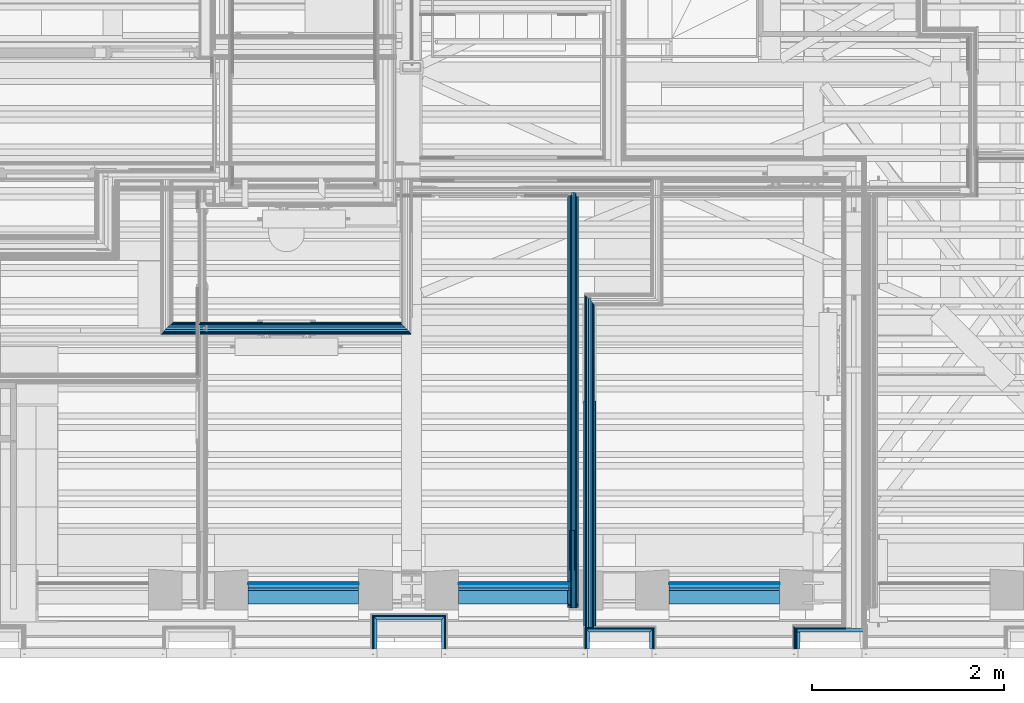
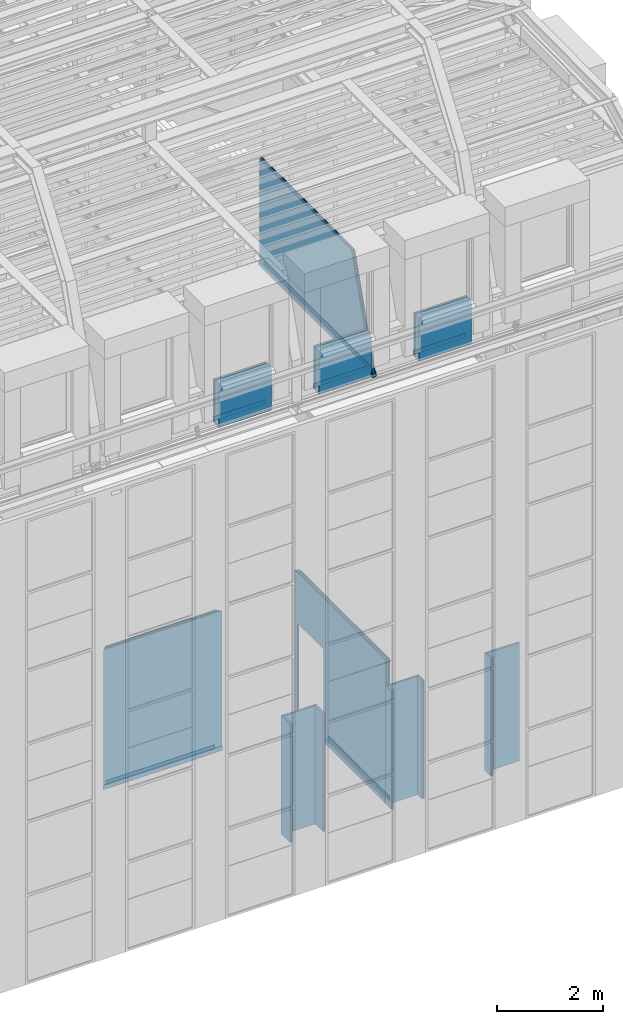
# One storey, part 49 of 183: 53 building element parts, 2 openings, 14 elements without a shape of their own.
"""IFC2X3 building model written with IfcOpenShell, lengths in metres."""

from ifc_helpers import new_model, entity, si_unit, converted_unit, derived_unit, money_unit, direction, frame, frame_2d, origin_with_axes, place, context, subcontext, project, spatial, polyline, rectangle, outline, extrude, clip, halfspace, material, type_object, element, aggregate, save


model = new_model("IFC2X3")

# Units and contexts
model_context = context("Model", 3, precision=1e-05, world=origin_with_axes(), true_north=direction((0.0, 1.0)))
body_context = subcontext(model_context, "Body", "Model", "MODEL_VIEW", scale=1.0)
ifc_project = project(units=[si_unit("LENGTHUNIT", "METRE"), si_unit("AREAUNIT", "SQUARE_METRE"), si_unit("VOLUMEUNIT", "CUBIC_METRE"), si_unit("ABSORBEDDOSEUNIT", "GRAY"), si_unit("AMOUNTOFSUBSTANCEUNIT", "MOLE"), si_unit("DOSEEQUIVALENTUNIT", "SIEVERT"), si_unit("ELECTRICCAPACITANCEUNIT", "FARAD"), si_unit("ELECTRICCHARGEUNIT", "COULOMB"), si_unit("ELECTRICCONDUCTANCEUNIT", "SIEMENS"), si_unit("ELECTRICCURRENTUNIT", "AMPERE"), si_unit("ELECTRICRESISTANCEUNIT", "OHM"), si_unit("ELECTRICVOLTAGEUNIT", "VOLT"), si_unit("ENERGYUNIT", "JOULE"), si_unit("FORCEUNIT", "NEWTON"), si_unit("FREQUENCYUNIT", "HERTZ"), si_unit("ILLUMINANCEUNIT", "LUX"), si_unit("INDUCTANCEUNIT", "HENRY"), si_unit("LUMINOUSFLUXUNIT", "LUMEN"), si_unit("LUMINOUSINTENSITYUNIT", "CANDELA"), si_unit("MAGNETICFLUXDENSITYUNIT", "TESLA"), si_unit("MAGNETICFLUXUNIT", "WEBER"), si_unit("MASSUNIT", "GRAM"), converted_unit("PLANEANGLEUNIT", "degree", entity("IfcReal", 0.0174532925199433), si_unit("PLANEANGLEUNIT", "RADIAN"), dimensions=[0, 0, 0, 0, 0, 0, 0]), si_unit("POWERUNIT", "WATT"), si_unit("PRESSUREUNIT", "PASCAL"), si_unit("RADIOACTIVITYUNIT", "BECQUEREL"), si_unit("SOLIDANGLEUNIT", "STERADIAN"), si_unit("THERMODYNAMICTEMPERATUREUNIT", "KELVIN"), si_unit("TIMEUNIT", "SECOND"), derived_unit("ACCELERATIONUNIT", [(si_unit("LENGTHUNIT", "METRE"), 1), (si_unit("TIMEUNIT", "SECOND"), -2)]), derived_unit("ANGULARVELOCITYUNIT", [(converted_unit("PLANEANGLEUNIT", "degree", entity("IfcReal", 0.0174532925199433), si_unit("PLANEANGLEUNIT", "RADIAN"), dimensions=[0, 0, 0, 0, 0, 0, 0]), 1), (si_unit("TIMEUNIT", "SECOND"), -1)]), derived_unit("CURVATUREUNIT", [(converted_unit("PLANEANGLEUNIT", "degree", entity("IfcReal", 0.0174532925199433), si_unit("PLANEANGLEUNIT", "RADIAN"), dimensions=[0, 0, 0, 0, 0, 0, 0]), 1), (si_unit("LENGTHUNIT", "METRE"), -1)]), derived_unit("DYNAMICVISCOSITYUNIT", [(si_unit("PRESSUREUNIT", "PASCAL"), 1), (si_unit("TIMEUNIT", "SECOND"), 1)]), derived_unit("HEATFLUXDENSITYUNIT", [(si_unit("POWERUNIT", "WATT"), 1), (si_unit("LENGTHUNIT", "METRE"), -2)]), derived_unit("HEATINGVALUEUNIT", [(si_unit("ENERGYUNIT", "JOULE"), 1), (si_unit("MASSUNIT", "GRAM"), -1)]), derived_unit("INTEGERCOUNTRATEUNIT", [(si_unit("TIMEUNIT", "SECOND"), -1)]), derived_unit("IONCONCENTRATIONUNIT", [(si_unit("MASSUNIT", "GRAM"), 1), (si_unit("VOLUMEUNIT", "CUBIC_METRE"), -1)]), derived_unit("ISOTHERMALMOISTURECAPACITYUNIT", [(si_unit("VOLUMEUNIT", "CUBIC_METRE"), 1), (si_unit("MASSUNIT", "GRAM"), -1)]), derived_unit("KINEMATICVISCOSITYUNIT", [(si_unit("AREAUNIT", "SQUARE_METRE"), 1), (si_unit("TIMEUNIT", "SECOND"), -1)]), derived_unit("LINEARFORCEUNIT", [(si_unit("FORCEUNIT", "NEWTON"), 1), (si_unit("LENGTHUNIT", "METRE"), -1)]), derived_unit("LINEARMOMENTUNIT", [(si_unit("FORCEUNIT", "NEWTON"), 1), (si_unit("LENGTHUNIT", "METRE"), -1)]), derived_unit("LINEARSTIFFNESSUNIT", [(si_unit("FORCEUNIT", "NEWTON"), 1), (si_unit("LENGTHUNIT", "METRE"), -1)]), derived_unit("LINEARVELOCITYUNIT", [(si_unit("LENGTHUNIT", "METRE"), 1), (si_unit("TIMEUNIT", "SECOND"), -1)]), derived_unit("LUMINOUSINTENSITYDISTRIBUTIONUNIT", [(si_unit("LUMINOUSINTENSITYUNIT", "CANDELA"), 1), (si_unit("LUMINOUSFLUXUNIT", "LUMEN"), -1)]), derived_unit("MASSDENSITYUNIT", [(si_unit("MASSUNIT", "GRAM"), 1), (si_unit("VOLUMEUNIT", "CUBIC_METRE"), -1)]), derived_unit("MASSFLOWRATEUNIT", [(si_unit("MASSUNIT", "GRAM"), 1), (si_unit("TIMEUNIT", "SECOND"), -1)]), derived_unit("MASSPERLENGTHUNIT", [(si_unit("MASSUNIT", "GRAM"), 1), (si_unit("LENGTHUNIT", "METRE"), -1)]), derived_unit("MODULUSOFELASTICITYUNIT", [(si_unit("FORCEUNIT", "NEWTON"), 1), (si_unit("AREAUNIT", "SQUARE_METRE"), -1)]), derived_unit("MODULUSOFLINEARSUBGRADEREACTIONUNIT", [(si_unit("FORCEUNIT", "NEWTON"), 1), (si_unit("LENGTHUNIT", "METRE"), -2)]), derived_unit("MODULUSOFROTATIONALSUBGRADEREACTIONUNIT", [(si_unit("FORCEUNIT", "NEWTON"), 1), (si_unit("LENGTHUNIT", "METRE"), 1)]), derived_unit("MODULUSOFSUBGRADEREACTIONUNIT", [(si_unit("FORCEUNIT", "NEWTON"), 1), (si_unit("VOLUMEUNIT", "CUBIC_METRE"), -1)]), derived_unit("MOISTUREDIFFUSIVITYUNIT", [(si_unit("VOLUMEUNIT", "CUBIC_METRE"), 1), (si_unit("TIMEUNIT", "SECOND"), -1)]), derived_unit("MOLECULARWEIGHTUNIT", [(si_unit("MASSUNIT", "GRAM"), 1), (si_unit("AMOUNTOFSUBSTANCEUNIT", "MOLE"), -1)]), derived_unit("PLANARFORCEUNIT", [(si_unit("FORCEUNIT", "NEWTON"), 1), (si_unit("LENGTHUNIT", "METRE"), -2)]), derived_unit("ROTATIONALFREQUENCYUNIT", [(si_unit("TIMEUNIT", "SECOND"), -1)]), derived_unit("ROTATIONALMASSUNIT", [(si_unit("MASSUNIT", "GRAM"), 1), (si_unit("LENGTHUNIT", "METRE"), 2)]), derived_unit("ROTATIONALSTIFFNESSUNIT", [(si_unit("FORCEUNIT", "NEWTON"), 1), (si_unit("LENGTHUNIT", "METRE"), 1), (converted_unit("PLANEANGLEUNIT", "degree", entity("IfcReal", 0.0174532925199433), si_unit("PLANEANGLEUNIT", "RADIAN"), dimensions=[0, 0, 0, 0, 0, 0, 0]), -1)]), derived_unit("SECTIONAREAINTEGRALUNIT", [(si_unit("LENGTHUNIT", "METRE"), 5)]), derived_unit("SECTIONMODULUSUNIT", [(si_unit("LENGTHUNIT", "METRE"), 3)]), derived_unit("SHEARMODULUSUNIT", [(si_unit("FORCEUNIT", "NEWTON"), 1), (si_unit("AREAUNIT", "SQUARE_METRE"), -1)]), derived_unit("SOUNDPOWERUNIT", [(si_unit("ENERGYUNIT", "JOULE"), 1), (si_unit("TIMEUNIT", "SECOND"), -1)]), derived_unit("SPECIFICHEATCAPACITYUNIT", [(si_unit("FORCEUNIT", "NEWTON"), 1), (si_unit("MASSUNIT", "GRAM"), -1), (si_unit("THERMODYNAMICTEMPERATUREUNIT", "KELVIN"), -1)]), derived_unit("TEMPERATUREGRADIENTUNIT", [(si_unit("THERMODYNAMICTEMPERATUREUNIT", "KELVIN"), 1), (si_unit("LENGTHUNIT", "METRE"), -1)]), derived_unit("THERMALADMITTANCEUNIT", [(si_unit("POWERUNIT", "WATT"), 1), (si_unit("AREAUNIT", "SQUARE_METRE"), -1), (si_unit("THERMODYNAMICTEMPERATUREUNIT", "KELVIN"), -1)]), derived_unit("THERMALCONDUCTANCEUNIT", [(si_unit("POWERUNIT", "WATT"), 1), (si_unit("LENGTHUNIT", "METRE"), -1), (si_unit("THERMODYNAMICTEMPERATUREUNIT", "KELVIN"), -1)]), derived_unit("THERMALEXPANSIONCOEFFICIENTUNIT", [(si_unit("THERMODYNAMICTEMPERATUREUNIT", "KELVIN"), -1)]), derived_unit("THERMALRESISTANCEUNIT", [(si_unit("AREAUNIT", "SQUARE_METRE"), 1), (si_unit("POWERUNIT", "WATT"), -1)]), derived_unit("THERMALTRANSMITTANCEUNIT", [(si_unit("POWERUNIT", "WATT"), 1), (si_unit("AREAUNIT", "SQUARE_METRE"), -1), (si_unit("THERMODYNAMICTEMPERATUREUNIT", "KELVIN"), -1)]), derived_unit("TORQUEUNIT", [(si_unit("FORCEUNIT", "NEWTON"), 1), (si_unit("LENGTHUNIT", "METRE"), 1)]), derived_unit("VAPORPERMEABILITYUNIT", [(si_unit("MASSUNIT", "GRAM"), 1), (si_unit("TIMEUNIT", "SECOND"), -1)]), derived_unit("VOLUMETRICFLOWRATEUNIT", [(si_unit("VOLUMEUNIT", "CUBIC_METRE"), 1), (si_unit("TIMEUNIT", "SECOND"), -1)]), derived_unit("WARPINGCONSTANTUNIT", [(si_unit("LENGTHUNIT", "METRE"), 6)]), derived_unit("WARPINGMOMENTUNIT", [(si_unit("FORCEUNIT", "NEWTON"), 1), (si_unit("LENGTHUNIT", "METRE"), 2)]), money_unit("GBP")], contexts=[model_context])

# Site, building, storey
site_placement = place(None, origin_with_axes())
site = spatial("IfcSite", under=ifc_project, at=site_placement, Name="Site", CompositionType="ELEMENT")
building_placement = place(site_placement, origin_with_axes())
building = spatial("IfcBuilding", under=site, at=building_placement, Name="Building01", CompositionType="ELEMENT")
storey_placement = place(building_placement, frame((0.0, 0.0, 5.15), z_axis=(0.0, 0.0, 1.0), x_axis=(1.0, 0.0, 0.0)))
storey = spatial("IfcBuildingStorey", under=building, at=storey_placement, Name="1F", CompositionType="ELEMENT", Elevation=5.15)

# Wall, building element parts
wall_type_1 = type_object("IfcWallType", Name="SHE_A-Walls_Type06d_ExternalWallInsulation_48mm", PredefinedType="NOTDEFINED")
wall_1_placement = place(storey_placement, frame((17.55, 0.1, 0.0), z_axis=(0.0, 0.0, 1.0), x_axis=(0.0, 1.0, 0.0)))
wall_1 = element("IfcWall", 1, at=wall_1_placement, inside=storey, type_object=wall_type_1, Name="6D", ObjectType="SHE_A-Walls_Type06d_ExternalWallInsulation_48mm")
ifc_material_1 = material(Name="A_BSUK_Insulation")
placement_1 = place(wall_1_placement, origin_with_axes())
building_element_part_1 = element("IfcBuildingElementPart", 2, at=placement_1, material=ifc_material_1, Name="1", context=body_context, shape_type="SweptSolid", body=[
    extrude(outline(polyline([(0.336, 0.036), (0.0, 0.036), (0.0, 0.0), (0.3, 0.0), (0.336, 0.036)])), origin_with_axes(), (0.0, 0.0, 1.0), 2.74),
])
ifc_material_2 = material(Name="A_BSUK_WallInternal_Finishes_Plasterboard")
building_element_part_2 = element("IfcBuildingElementPart", 3, at=placement_1, material=ifc_material_2, Name="2", context=body_context, shape_type="SweptSolid", body=[
    extrude(outline(polyline([(0.348, 0.048), (0.0, 0.048), (0.0, 0.035), (0.335, 0.035), (0.348, 0.048)])), origin_with_axes(), (0.0, 0.0, 1.0), 2.74),
])
aggregate(wall_1, [building_element_part_1, building_element_part_2])

wall_2_placement = place(storey_placement, frame((17.55, 0.4, 0.0), z_axis=(0.0, 0.0, 1.0), x_axis=(1.0, 0.0, 0.0)))
wall_2 = element("IfcWall", 4, at=wall_2_placement, inside=storey, type_object=wall_type_1, Name="6D", ObjectType="SHE_A-Walls_Type06d_ExternalWallInsulation_48mm")
placement_2 = place(wall_2_placement, origin_with_axes())
building_element_part_3 = element("IfcBuildingElementPart", 5, at=placement_2, material=ifc_material_1, Name="1", context=body_context, shape_type="SweptSolid", body=[
    extrude(outline(polyline([(0.706, 0.036), (-0.036, 0.036), (0.0, 0.0), (0.67, 0.0), (0.706, 0.036)])), origin_with_axes(), (0.0, 0.0, 1.0), 2.74),
])
building_element_part_4 = element("IfcBuildingElementPart", 6, at=placement_2, material=ifc_material_2, Name="2", context=body_context, shape_type="SweptSolid", body=[
    extrude(outline(polyline([(0.718, 0.048), (-0.048, 0.048), (-0.035, 0.035), (0.705, 0.035), (0.718, 0.048)])), origin_with_axes(), (0.0, 0.0, 1.0), 2.74),
])
aggregate(wall_2, [building_element_part_3, building_element_part_4])

wall_3_placement = place(storey_placement, frame((18.22, 0.4, 0.0), z_axis=(0.0, 0.0, 1.0), x_axis=(0.0, -1.0, 0.0)))
wall_3 = element("IfcWall", 7, at=wall_3_placement, inside=storey, type_object=wall_type_1, Name="6D", ObjectType="SHE_A-Walls_Type06d_ExternalWallInsulation_48mm")
placement_3 = place(wall_3_placement, origin_with_axes())
building_element_part_5 = element("IfcBuildingElementPart", 8, at=placement_3, material=ifc_material_1, Name="1", context=body_context, shape_type="SweptSolid", body=[
    extrude(outline(polyline([(-0.036, 0.036), (0.0, 0.0), (0.3, 0.0), (0.3, 0.036), (-0.036, 0.036)])), origin_with_axes(), (0.0, 0.0, 1.0), 2.74),
])
building_element_part_6 = element("IfcBuildingElementPart", 9, at=placement_3, material=ifc_material_2, Name="2", context=body_context, shape_type="SweptSolid", body=[
    extrude(outline(polyline([(-0.048, 0.048), (-0.035, 0.035), (0.3, 0.035), (0.3, 0.048), (-0.048, 0.048)])), origin_with_axes(), (0.0, 0.0, 1.0), 2.74),
])
aggregate(wall_3, [building_element_part_5, building_element_part_6])

# Wall, openings, building element parts
wall_type_2 = type_object("IfcWallType", Name="SHE_A-Walls_Type05a_Partition_95mm_tall", PredefinedType="NOTDEFINED")
wall_4_placement = place(storey_placement, frame((19.75, 3.745, 0.0), z_axis=(0.0, 0.0, 1.0), x_axis=(0.0, -1.0, 0.0)))
wall_4 = element("IfcWall", 10, at=wall_4_placement, inside=storey, type_object=wall_type_2, Name="5A", ObjectType="SHE_A-Walls_Type05a_Partition_95mm_tall")
opening_1_placement = place(wall_4_placement, frame((0.087, -0.035, 0.0), z_axis=(0.0, 0.0, 1.0), x_axis=(1.0, 0.0, 0.0)))
element("IfcOpeningElement", 11, at=opening_1_placement, cuts=wall_4, Name="Opening", ObjectType="Recess", context=body_context, shape_type="SweptSolid", body=[
    extrude(rectangle(XDim=2.142, YDim=0.984, at=frame_2d((-0.492, 1.071), x_axis=(0.0, 1.0))), frame((0.0, 0.0, 0.0), z_axis=(0.0, 1.0, 0.0), x_axis=(-1.0, 0.0, 0.0)), (0.0, 0.0, 1.0), 0.035),
])
opening_2_placement = place(wall_4_placement, frame((0.099, -0.05, 0.0), z_axis=(0.0, 0.0, 1.0), x_axis=(1.0, 0.0, 0.0)))
element("IfcOpeningElement", 12, at=opening_2_placement, cuts=wall_4, Name="Opening", ObjectType="Opening", context=body_context, shape_type="SweptSolid", body=[
    extrude(rectangle(XDim=0.9, YDim=2.127, at=frame_2d((-0.45, 1.0635), x_axis=(-1.0, 0.0))), frame((0.0, 0.0, 0.0), z_axis=(0.0, 1.0, 0.0), x_axis=(-1.0, 0.0, 0.0)), (0.0, 0.0, 1.0), 0.125),
    extrude(rectangle(XDim=0.9, YDim=2.142, at=frame_2d((-0.45, 1.056), x_axis=(-1.0, 0.0))), frame((0.0, 0.015, 0.0), z_axis=(0.0, 1.0, 0.0), x_axis=(-1.0, 0.0, 0.0)), (0.0, 0.0, 1.0), 0.012),
    extrude(rectangle(XDim=2.142, YDim=0.984, at=frame_2d((-0.48, 1.071), x_axis=(0.0, -1.0))), frame((0.0, 0.0, 0.0), z_axis=(0.0, 1.0, 0.0), x_axis=(-1.0, 0.0, 0.0)), (0.0, 0.0, 1.0), 0.015),
    extrude(rectangle(XDim=0.9, YDim=2.142, at=frame_2d((-0.45, 1.056), x_axis=(-1.0, 0.0))), frame((0.0, 0.027, 0.0), z_axis=(0.0, 1.0, 0.0), x_axis=(-1.0, 0.0, 0.0)), (0.0, 0.0, 1.0), 0.023),
    extrude(outline(polyline([(0.012, 2.127), (0.012, 2.142), (-0.972, 2.142), (-0.972, 0.0), (-0.494219, 0.0), (-0.494219, -0.015), (0.589781, -0.015), (0.589781, 2.127), (0.012, 2.127)])), frame((0.0, 0.05, 0.0), z_axis=(0.0, 1.0, 0.0), x_axis=(-1.0, 0.0, 0.0)), (0.0, 0.0, 1.0), 0.025),
    extrude(outline(polyline([(0.012, 2.127), (0.012, 2.142), (-0.972, 2.142), (-0.972, 0.0), (-0.494219, 0.0), (-0.494219, -0.015), (0.589781, -0.015), (0.589781, 2.127), (0.012, 2.127)])), frame((0.0, 0.075, 0.0), z_axis=(0.0, 1.0, 0.0), x_axis=(-1.0, 0.0, 0.0)), (0.0, 0.0, 1.0), 0.023),
    extrude(outline(polyline([(-0.972, 2.142), (-0.972, 0.0), (-0.9, 0.0), (-0.9, -0.015), (0.0, -0.015), (0.0, 0.0), (0.589781, 0.0), (0.589781, 2.142), (-0.972, 2.142)])), frame((0.0, 0.098, 0.0), z_axis=(0.0, 1.0, 0.0), x_axis=(-1.0, 0.0, 0.0)), (0.0, 0.0, 1.0), 0.012),
    extrude(rectangle(XDim=2.142, YDim=0.984, at=frame_2d((-0.48, 1.071), x_axis=(0.0, -1.0))), frame((0.0, 0.11, 0.0), z_axis=(0.0, 1.0, 0.0), x_axis=(-1.0, 0.0, 0.0)), (0.0, 0.0, 1.0), 0.015),
])
ifc_material_3 = material(Name="A_BSUK_Walls_Timber")
placement_4 = place(wall_4_placement, origin_with_axes())
building_element_part_7 = element("IfcBuildingElementPart", 13, at=placement_4, material=ifc_material_3, Name="1", context=body_context, shape_type="SweptSolid", body=[
    extrude(rectangle(XDim=2.344, YDim=0.015, at=frame_2d((2.24, -0.0425), x_axis=(-1.0, 0.0))), frame((0.0, 0.0, 0.015), z_axis=(0.0, 0.0, 1.0), x_axis=(1.0, 0.0, 0.0)), (0.0, 0.0, 1.0), 0.1),
])
building_element_part_8 = element("IfcBuildingElementPart", 14, at=placement_4, material=ifc_material_2, Name="2", context=body_context, shape_type="SweptSolid", body=[
    extrude(outline(polyline([(3.427, -0.023), (-0.023, -0.023), (-0.035, -0.035), (3.427, -0.035), (3.427, -0.023)])), origin_with_axes(), (0.0, 0.0, 1.0), 3.32),
])
ifc_material_4 = material(Name="Air Cavity")
building_element_part_9 = element("IfcBuildingElementPart", 15, at=placement_4, material=ifc_material_4, Name="3", context=body_context, shape_type="SweptSolid", body=[
    extrude(outline(polyline([(3.427, 0.0), (0.0, 0.0), (-0.023, -0.023), (3.427, -0.023), (3.427, 0.0)])), origin_with_axes(), (0.0, 0.0, 1.0), 3.32),
])
building_element_part_10 = element("IfcBuildingElementPart", 16, at=placement_4, material=ifc_material_1, Name="4", context=body_context, shape_type="SweptSolid", body=[
    extrude(rectangle(XDim=3.427, YDim=0.025, at=frame_2d((1.7135, 0.0125), x_axis=(-1.0, 0.0))), origin_with_axes(), (0.0, 0.0, 1.0), 3.32),
])
building_element_part_11 = element("IfcBuildingElementPart", 17, at=placement_4, material=ifc_material_4, Name="5", context=body_context, shape_type="SweptSolid", body=[
    extrude(rectangle(XDim=3.427, YDim=0.023, at=frame_2d((1.7135, 0.0365), x_axis=(-1.0, 0.0))), origin_with_axes(), (0.0, 0.0, 1.0), 3.32),
])
building_element_part_12 = element("IfcBuildingElementPart", 18, at=placement_4, material=ifc_material_2, Name="6", context=body_context, shape_type="SweptSolid", body=[
    extrude(outline(polyline([(3.427, 0.06), (0.06, 0.06), (0.048, 0.048), (3.427, 0.048), (3.427, 0.06)])), origin_with_axes(), (0.0, 0.0, 1.0), 3.32),
])
building_element_part_13 = element("IfcBuildingElementPart", 19, at=placement_4, material=ifc_material_3, Name="7", context=body_context, shape_type="SweptSolid", body=[
    extrude(rectangle(XDim=2.344, YDim=0.015, at=frame_2d((2.24, 0.0675), x_axis=(-1.0, 0.0))), frame((0.0, 0.0, 0.015), z_axis=(0.0, 0.0, 1.0), x_axis=(1.0, 0.0, 0.0)), (0.0, 0.0, 1.0), 0.1),
])
aggregate(wall_4, [building_element_part_7, building_element_part_8, building_element_part_9, building_element_part_10, building_element_part_11, building_element_part_12, building_element_part_13])

# Wall, building element parts
wall_5_placement = place(storey_placement, frame((17.8675, 3.42, 0.0), z_axis=(0.0, 0.0, 1.0), x_axis=(-1.0, 0.0, 0.0)))
wall_5 = element("IfcWall", 20, at=wall_5_placement, inside=storey, type_object=wall_type_2, Name="5A", ObjectType="SHE_A-Walls_Type05a_Partition_95mm_tall")
placement_5 = place(wall_5_placement, origin_with_axes())
building_element_part_14 = element("IfcBuildingElementPart", 21, at=placement_5, material=ifc_material_3, Name="1", context=body_context, shape_type="SweptSolid", body=[
    extrude(outline(polyline([(2.46, -0.06), (0.06, -0.06), (0.06, -0.075), (2.445, -0.075), (2.46, -0.06)])), frame((0.0, 0.0, 0.015), z_axis=(0.0, 0.0, 1.0), x_axis=(1.0, 0.0, 0.0)), (0.0, 0.0, 1.0), 0.1),
])
building_element_part_15 = element("IfcBuildingElementPart", 22, at=placement_5, material=ifc_material_2, Name="2", context=body_context, shape_type="SweptSolid", body=[
    extrude(outline(polyline([(2.472, -0.048), (0.048, -0.048), (0.06, -0.06), (2.46, -0.06), (2.472, -0.048)])), origin_with_axes(), (0.0, 0.0, 1.0), 3.24),
])
building_element_part_16 = element("IfcBuildingElementPart", 23, at=placement_5, material=ifc_material_4, Name="3", context=body_context, shape_type="SweptSolid", body=[
    extrude(outline(polyline([(2.495, -0.025), (0.025, -0.025), (0.048, -0.048), (2.472, -0.048), (2.495, -0.025)])), origin_with_axes(), (0.0, 0.0, 1.0), 3.24),
])
building_element_part_17 = element("IfcBuildingElementPart", 24, at=placement_5, material=ifc_material_1, Name="4", context=body_context, shape_type="SweptSolid", body=[
    extrude(outline(polyline([(2.52, 0.0), (0.0, 0.0), (0.025, -0.025), (2.495, -0.025), (2.52, 0.0)])), origin_with_axes(), (0.0, 0.0, 1.0), 3.24),
])
building_element_part_18 = element("IfcBuildingElementPart", 25, at=placement_5, material=ifc_material_4, Name="5", context=body_context, shape_type="SweptSolid", body=[
    extrude(outline(polyline([(2.543, 0.023), (-0.023, 0.023), (0.0, 0.0), (2.52, 0.0), (2.543, 0.023)])), origin_with_axes(), (0.0, 0.0, 1.0), 3.24),
])
building_element_part_19 = element("IfcBuildingElementPart", 26, at=placement_5, material=ifc_material_2, Name="6", context=body_context, shape_type="SweptSolid", body=[
    extrude(outline(polyline([(2.555, 0.035), (-0.035, 0.035), (-0.023, 0.023), (2.543, 0.023), (2.555, 0.035)])), origin_with_axes(), (0.0, 0.0, 1.0), 3.24),
])
building_element_part_20 = element("IfcBuildingElementPart", 27, at=placement_5, material=ifc_material_3, Name="7", context=body_context, shape_type="SweptSolid", body=[
    extrude(outline(polyline([(2.57, 0.05), (-0.035, 0.05), (-0.035, 0.035), (2.555, 0.035), (2.57, 0.05)])), frame((0.0, 0.0, 0.015), z_axis=(0.0, 0.0, 1.0), x_axis=(1.0, 0.0, 0.0)), (0.0, 0.0, 1.0), 0.1),
])
aggregate(wall_5, [building_element_part_14, building_element_part_15, building_element_part_16, building_element_part_17, building_element_part_18, building_element_part_19, building_element_part_20])

wall_type_3 = type_object("IfcWallType", Name="SHE_A-Walls_Type06f_ExternalWallInsulation_48+15mm", PredefinedType="NOTDEFINED")
wall_6_placement = place(storey_placement, frame((21.953, 0.1, 0.0), z_axis=(0.0, 0.0, 1.0), x_axis=(0.0, 1.0, 0.0)))
wall_6 = element("IfcWall", 28, at=wall_6_placement, inside=storey, type_object=wall_type_3, Name="6F", ObjectType="SHE_A-Walls_Type06f_ExternalWallInsulation_48+15mm")
placement_6 = place(wall_6_placement, origin_with_axes())
building_element_part_21 = element("IfcBuildingElementPart", 29, at=placement_6, material=ifc_material_1, Name="1", context=body_context, shape_type="SweptSolid", body=[
    extrude(rectangle(XDim=0.17, YDim=0.036, at=frame_2d((0.085, 0.018), x_axis=(-1.0, 0.0))), origin_with_axes(), (0.0, 0.0, 1.0), 2.74),
])
building_element_part_22 = element("IfcBuildingElementPart", 30, at=placement_6, material=ifc_material_2, Name="2", context=body_context, shape_type="SweptSolid", body=[
    extrude(rectangle(XDim=0.206, YDim=0.012, at=frame_2d((0.103, 0.042), x_axis=(-1.0, 0.0))), origin_with_axes(), (0.0, 0.0, 1.0), 2.74),
])
building_element_part_23 = element("IfcBuildingElementPart", 31, at=placement_6, material=ifc_material_2, Name="3", context=body_context, shape_type="SweptSolid", body=[
    extrude(outline(polyline([(0.233, 0.063), (0.0, 0.063), (0.0, 0.048), (0.218, 0.048), (0.233, 0.063)])), origin_with_axes(), (0.0, 0.0, 1.0), 2.74),
])
aggregate(wall_6, [building_element_part_21, building_element_part_22, building_element_part_23])

wall_7_placement = place(storey_placement, frame((21.917, 0.27, 0.0), z_axis=(0.0, 0.0, 1.0), x_axis=(1.0, 0.0, 0.0)))
wall_7 = element("IfcWall", 32, at=wall_7_placement, inside=storey, type_object=wall_type_3, Name="6F", ObjectType="SHE_A-Walls_Type06f_ExternalWallInsulation_48+15mm")
placement_7 = place(wall_7_placement, origin_with_axes())
building_element_part_24 = element("IfcBuildingElementPart", 33, at=placement_7, material=ifc_material_1, Name="1", context=body_context, shape_type="SweptSolid", body=[
    extrude(rectangle(XDim=0.696, YDim=0.036, at=frame_2d((0.348, 0.018), x_axis=(-1.0, 0.0))), origin_with_axes(), (0.0, 0.0, 1.0), 2.74),
])
building_element_part_25 = element("IfcBuildingElementPart", 34, at=placement_7, material=ifc_material_2, Name="2", context=body_context, shape_type="SweptSolid", body=[
    extrude(rectangle(XDim=0.525, YDim=0.012, at=frame_2d((0.2505, 0.042), x_axis=(-1.0, 0.0))), origin_with_axes(), (0.0, 0.0, 1.0), 2.74),
])
aggregate(wall_7, [building_element_part_24, building_element_part_25])

wall_8_placement = place(storey_placement, frame((19.763, 0.1, 0.0), z_axis=(0.0, 0.0, 1.0), x_axis=(0.0, 1.0, 0.0)))
wall_8 = element("IfcWall", 35, at=wall_8_placement, inside=storey, type_object=wall_type_1, Name="6D", ObjectType="SHE_A-Walls_Type06d_ExternalWallInsulation_48mm")
placement_8 = place(wall_8_placement, origin_with_axes())
building_element_part_26 = element("IfcBuildingElementPart", 36, at=placement_8, material=ifc_material_1, Name="1", context=body_context, shape_type="SweptSolid", body=[
    extrude(outline(polyline([(0.206, 0.036), (0.0, 0.036), (0.0, 0.0), (0.17, 0.0), (0.206, 0.036)])), origin_with_axes(), (0.0, 0.0, 1.0), 2.74),
])
building_element_part_27 = element("IfcBuildingElementPart", 37, at=placement_8, material=ifc_material_2, Name="2", context=body_context, shape_type="SweptSolid", body=[
    extrude(outline(polyline([(0.218, 0.048), (0.0, 0.048), (0.0, 0.035), (0.205, 0.035), (0.218, 0.048)])), origin_with_axes(), (0.0, 0.0, 1.0), 2.74),
])
aggregate(wall_8, [building_element_part_26, building_element_part_27])

wall_9_placement = place(storey_placement, frame((19.763, 0.27, 0.0), z_axis=(0.0, 0.0, 1.0), x_axis=(1.0, 0.0, 0.0)))
wall_9 = element("IfcWall", 38, at=wall_9_placement, inside=storey, type_object=wall_type_1, Name="6D", ObjectType="SHE_A-Walls_Type06d_ExternalWallInsulation_48mm")
placement_9 = place(wall_9_placement, origin_with_axes())
building_element_part_28 = element("IfcBuildingElementPart", 39, at=placement_9, material=ifc_material_1, Name="1", context=body_context, shape_type="SweptSolid", body=[
    extrude(outline(polyline([(0.66, 0.036), (-0.036, 0.036), (0.0, 0.0), (0.624, 0.0), (0.66, 0.036)])), origin_with_axes(), (0.0, 0.0, 1.0), 2.74),
])
building_element_part_29 = element("IfcBuildingElementPart", 40, at=placement_9, material=ifc_material_2, Name="2", context=body_context, shape_type="SweptSolid", body=[
    extrude(outline(polyline([(0.672, 0.048), (-0.048, 0.048), (-0.035, 0.035), (0.659, 0.035), (0.672, 0.048)])), origin_with_axes(), (0.0, 0.0, 1.0), 2.74),
])
aggregate(wall_9, [building_element_part_28, building_element_part_29])

wall_10_placement = place(storey_placement, frame((20.387, 0.27, 0.0), z_axis=(0.0, 0.0, 1.0), x_axis=(0.0, -1.0, 0.0)))
wall_10 = element("IfcWall", 41, at=wall_10_placement, inside=storey, type_object=wall_type_1, Name="6D", ObjectType="SHE_A-Walls_Type06d_ExternalWallInsulation_48mm")
placement_10 = place(wall_10_placement, origin_with_axes())
building_element_part_30 = element("IfcBuildingElementPart", 42, at=placement_10, material=ifc_material_1, Name="1", context=body_context, shape_type="SweptSolid", body=[
    extrude(outline(polyline([(-0.036, 0.036), (0.0, 0.0), (0.17, 0.0), (0.17, 0.036), (-0.036, 0.036)])), origin_with_axes(), (0.0, 0.0, 1.0), 2.74),
])
building_element_part_31 = element("IfcBuildingElementPart", 43, at=placement_10, material=ifc_material_2, Name="2", context=body_context, shape_type="SweptSolid", body=[
    extrude(outline(polyline([(-0.048, 0.048), (-0.035, 0.035), (0.17, 0.035), (0.17, 0.048), (-0.048, 0.048)])), origin_with_axes(), (0.0, 0.0, 1.0), 2.74),
])
aggregate(wall_10, [building_element_part_30, building_element_part_31])

wall_type_4 = type_object("IfcWallType", Name="SHE_A-Walls_Type05b_Partition_80mm", PredefinedType="NOTDEFINED")
wall_11_placement = place(storey_placement, frame((19.576976, 4.844, 9.78), z_axis=(0.0, 0.0, 1.0), x_axis=(0.0, -1.0, 0.0)))
wall_11 = element("IfcWall", 44, at=wall_11_placement, inside=storey, type_object=wall_type_4, Name="5B", ObjectType="SHE_A-Walls_Type05b_Partition_80mm")
placement_11 = place(wall_11_placement, origin_with_axes())
building_element_part_32 = element("IfcBuildingElementPart", 45, at=placement_11, material=ifc_material_3, Name="1", context=body_context, shape_type="Clipping", body=[
    clip(extrude(rectangle(XDim=4.28827, YDim=0.015, at=frame_2d((2.171135, -0.0345), x_axis=(-1.0, 0.0))), frame((0.0, 0.0, 0.015), z_axis=(0.0, 0.0, 1.0), x_axis=(1.0, 0.0, 0.0)), (0.0, 0.0, 1.0), 0.1), halfspace(frame((3.907606, 0.0, 1.269658), z_axis=(-0.95105652, 0.0, -0.30901699), x_axis=(0.0, -1.0, 0.0)), True)),
])
building_element_part_33 = element("IfcBuildingElementPart", 46, at=placement_11, material=ifc_material_2, Name="2", context=body_context, shape_type="Clipping", body=[
    clip(extrude(rectangle(XDim=4.293143, YDim=0.015, at=frame_2d((2.173572, -0.0195), x_axis=(-1.0, 0.0))), origin_with_axes(), (0.0, 0.0, 1.0), 2.468), halfspace(frame((3.907606, 0.0, 1.269658), z_axis=(-0.95105652, 0.0, -0.30901699), x_axis=(0.0, -1.0, 0.0)), True)),
])
building_element_part_34 = element("IfcBuildingElementPart", 47, at=placement_11, material=ifc_material_4, Name="3", context=body_context, shape_type="Clipping", body=[
    clip(extrude(rectangle(XDim=4.293143, YDim=0.012, at=frame_2d((2.173572, -0.006), x_axis=(-1.0, 0.0))), origin_with_axes(), (0.0, 0.0, 1.0), 2.468), halfspace(frame((3.907606, 0.0, 1.269658), z_axis=(-0.95105652, 0.0, -0.30901699), x_axis=(0.0, -1.0, 0.0)), True)),
])
building_element_part_35 = element("IfcBuildingElementPart", 48, at=placement_11, material=ifc_material_1, Name="4", context=body_context, shape_type="Clipping", body=[
    clip(extrude(rectangle(XDim=4.320143, YDim=0.025, at=frame_2d((2.160072, 0.0125), x_axis=(-1.0, 0.0))), origin_with_axes(), (0.0, 0.0, 1.0), 2.468), halfspace(frame((3.907606, 0.0, 1.269658), z_axis=(-0.95105652, 0.0, -0.30901699), x_axis=(0.0, -1.0, 0.0)), True)),
])
building_element_part_36 = element("IfcBuildingElementPart", 49, at=placement_11, material=ifc_material_4, Name="5", context=body_context, shape_type="Clipping", body=[
    clip(extrude(rectangle(XDim=4.320143, YDim=0.013, at=frame_2d((2.160072, 0.0315), x_axis=(-1.0, 0.0))), origin_with_axes(), (0.0, 0.0, 1.0), 2.468), halfspace(frame((3.907606, 0.0, 1.269658), z_axis=(-0.95105652, 0.0, -0.30901699), x_axis=(0.0, -1.0, 0.0)), True)),
])
building_element_part_37 = element("IfcBuildingElementPart", 50, at=placement_11, material=ifc_material_2, Name="6", context=body_context, shape_type="Clipping", body=[
    clip(extrude(rectangle(XDim=4.308143, YDim=0.015, at=frame_2d((2.166072, 0.0455), x_axis=(-1.0, 0.0))), origin_with_axes(), (0.0, 0.0, 1.0), 2.468), halfspace(frame((3.907606, 0.0, 1.269658), z_axis=(-0.95105652, 0.0, -0.30901699), x_axis=(0.0, -1.0, 0.0)), True)),
])
building_element_part_38 = element("IfcBuildingElementPart", 51, at=placement_11, material=ifc_material_3, Name="7", context=body_context, shape_type="Clipping", body=[
    clip(extrude(rectangle(XDim=4.27327, YDim=0.015, at=frame_2d((2.178635, 0.0605), x_axis=(-1.0, 0.0))), frame((0.0, 0.0, 0.015), z_axis=(0.0, 0.0, 1.0), x_axis=(1.0, 0.0, 0.0)), (0.0, 0.0, 1.0), 0.1), halfspace(frame((3.907606, 0.0, 1.269658), z_axis=(-0.95105652, 0.0, -0.30901699), x_axis=(0.0, -1.0, 0.0)), True)),
])
aggregate(wall_11, [building_element_part_32, building_element_part_33, building_element_part_34, building_element_part_35, building_element_part_36, building_element_part_37, building_element_part_38])

wall_type_5 = type_object("IfcWallType", Name="SHE_A-Walls_Type06e_ExternalWallPenthouse_280mm", PredefinedType="NOTDEFINED")
wall_12_placement = place(storey_placement, frame((21.739976, 0.565, 9.78), z_axis=(0.0, 0.0, 1.0), x_axis=(-1.0, 0.0, 0.0)))
wall_12 = element("IfcWall", 52, at=wall_12_placement, inside=storey, type_object=wall_type_5, Name="6E", ObjectType="SHE_A-Walls_Type06e_ExternalWallPenthouse_280mm")
placement_12 = place(wall_12_placement, origin_with_axes())
building_element_part_39 = element("IfcBuildingElementPart", 53, at=placement_12, material=ifc_material_3, Name="1", context=body_context, shape_type="SweptSolid", body=[
    extrude(rectangle(XDim=1.149951, YDim=0.015, at=frame_2d((0.574976, -0.2225), x_axis=(-1.0, 0.0))), frame((0.0, 0.0, 0.015), z_axis=(0.0, 0.0, 1.0), x_axis=(1.0, 0.0, 0.0)), (0.0, 0.0, 1.0), 0.1),
])
building_element_part_40 = element("IfcBuildingElementPart", 54, at=placement_12, material=ifc_material_2, Name="2", context=body_context, shape_type="SweptSolid", body=[
    extrude(rectangle(XDim=1.149951, YDim=0.01, at=frame_2d((0.574976, -0.21), x_axis=(-1.0, 0.0))), origin_with_axes(), (0.0, 0.0, 1.0), 1.0),
])
building_element_part_41 = element("IfcBuildingElementPart", 55, at=placement_12, material=ifc_material_1, Name="3", context=body_context, shape_type="SweptSolid", body=[
    extrude(rectangle(XDim=1.149951, YDim=0.04, at=frame_2d((0.574976, -0.185), x_axis=(-1.0, 0.0))), origin_with_axes(), (0.0, 0.0, 1.0), 1.0),
])
building_element_part_42 = element("IfcBuildingElementPart", 56, at=placement_12, material=ifc_material_4, Name="4", context=body_context, shape_type="SweptSolid", body=[
    extrude(rectangle(XDim=1.149951, YDim=0.025, at=frame_2d((0.574976, -0.1525), x_axis=(-1.0, 0.0))), origin_with_axes(), (0.0, 0.0, 1.0), 1.0),
])
building_element_part_43 = element("IfcBuildingElementPart", 57, at=placement_12, material=ifc_material_1, Name="5", context=body_context, shape_type="SweptSolid", body=[
    extrude(rectangle(XDim=1.149951, YDim=0.14, at=frame_2d((0.574976, -0.07), x_axis=(-1.0, 0.0))), origin_with_axes(), (0.0, 0.0, 1.0), 1.0),
])
aggregate(wall_12, [building_element_part_39, building_element_part_40, building_element_part_41, building_element_part_42, building_element_part_43])

wall_13_placement = place(storey_placement, frame((19.549976, 0.565, 9.78), z_axis=(0.0, 0.0, 1.0), x_axis=(-1.0, 0.0, 0.0)))
wall_13 = element("IfcWall", 58, at=wall_13_placement, inside=storey, type_object=wall_type_5, Name="6E", ObjectType="SHE_A-Walls_Type06e_ExternalWallPenthouse_280mm")
placement_13 = place(wall_13_placement, origin_with_axes())
building_element_part_44 = element("IfcBuildingElementPart", 59, at=placement_13, material=ifc_material_3, Name="1", context=body_context, shape_type="SweptSolid", body=[
    extrude(rectangle(XDim=1.149951, YDim=0.015, at=frame_2d((0.574976, -0.2225), x_axis=(-1.0, 0.0))), frame((0.0, 0.0, 0.015), z_axis=(0.0, 0.0, 1.0), x_axis=(1.0, 0.0, 0.0)), (0.0, 0.0, 1.0), 0.1),
])
building_element_part_45 = element("IfcBuildingElementPart", 60, at=placement_13, material=ifc_material_2, Name="2", context=body_context, shape_type="SweptSolid", body=[
    extrude(rectangle(XDim=1.149951, YDim=0.01, at=frame_2d((0.574976, -0.21), x_axis=(-1.0, 0.0))), origin_with_axes(), (0.0, 0.0, 1.0), 1.0),
])
building_element_part_46 = element("IfcBuildingElementPart", 61, at=placement_13, material=ifc_material_1, Name="3", context=body_context, shape_type="SweptSolid", body=[
    extrude(rectangle(XDim=1.149951, YDim=0.04, at=frame_2d((0.574976, -0.185), x_axis=(-1.0, 0.0))), origin_with_axes(), (0.0, 0.0, 1.0), 1.0),
])
building_element_part_47 = element("IfcBuildingElementPart", 62, at=placement_13, material=ifc_material_4, Name="4", context=body_context, shape_type="SweptSolid", body=[
    extrude(rectangle(XDim=1.149951, YDim=0.025, at=frame_2d((0.574976, -0.1525), x_axis=(-1.0, 0.0))), origin_with_axes(), (0.0, 0.0, 1.0), 1.0),
])
building_element_part_48 = element("IfcBuildingElementPart", 63, at=placement_13, material=ifc_material_1, Name="5", context=body_context, shape_type="SweptSolid", body=[
    extrude(rectangle(XDim=1.149951, YDim=0.14, at=frame_2d((0.574976, -0.07), x_axis=(-1.0, 0.0))), origin_with_axes(), (0.0, 0.0, 1.0), 1.0),
])
aggregate(wall_13, [building_element_part_44, building_element_part_45, building_element_part_46, building_element_part_47, building_element_part_48])

wall_14_placement = place(storey_placement, frame((17.359976, 0.565, 9.78), z_axis=(0.0, 0.0, 1.0), x_axis=(-1.0, 0.0, 0.0)))
wall_14 = element("IfcWall", 64, at=wall_14_placement, inside=storey, type_object=wall_type_5, Name="6E", ObjectType="SHE_A-Walls_Type06e_ExternalWallPenthouse_280mm")
placement_14 = place(wall_14_placement, origin_with_axes())
building_element_part_49 = element("IfcBuildingElementPart", 65, at=placement_14, material=ifc_material_3, Name="1", context=body_context, shape_type="SweptSolid", body=[
    extrude(rectangle(XDim=1.149951, YDim=0.015, at=frame_2d((0.574976, -0.2225), x_axis=(-1.0, 0.0))), frame((0.0, 0.0, 0.015), z_axis=(0.0, 0.0, 1.0), x_axis=(1.0, 0.0, 0.0)), (0.0, 0.0, 1.0), 0.1),
])
building_element_part_50 = element("IfcBuildingElementPart", 66, at=placement_14, material=ifc_material_2, Name="2", context=body_context, shape_type="SweptSolid", body=[
    extrude(rectangle(XDim=1.149951, YDim=0.01, at=frame_2d((0.574976, -0.21), x_axis=(-1.0, 0.0))), origin_with_axes(), (0.0, 0.0, 1.0), 1.0),
])
building_element_part_51 = element("IfcBuildingElementPart", 67, at=placement_14, material=ifc_material_1, Name="3", context=body_context, shape_type="SweptSolid", body=[
    extrude(rectangle(XDim=1.149951, YDim=0.04, at=frame_2d((0.574976, -0.185), x_axis=(-1.0, 0.0))), origin_with_axes(), (0.0, 0.0, 1.0), 1.0),
])
building_element_part_52 = element("IfcBuildingElementPart", 68, at=placement_14, material=ifc_material_4, Name="4", context=body_context, shape_type="SweptSolid", body=[
    extrude(rectangle(XDim=1.149951, YDim=0.025, at=frame_2d((0.574976, -0.1525), x_axis=(-1.0, 0.0))), origin_with_axes(), (0.0, 0.0, 1.0), 1.0),
])
building_element_part_53 = element("IfcBuildingElementPart", 69, at=placement_14, material=ifc_material_1, Name="5", context=body_context, shape_type="SweptSolid", body=[
    extrude(rectangle(XDim=1.149951, YDim=0.14, at=frame_2d((0.574976, -0.07), x_axis=(-1.0, 0.0))), origin_with_axes(), (0.0, 0.0, 1.0), 1.0),
])
aggregate(wall_14, [building_element_part_49, building_element_part_50, building_element_part_51, building_element_part_52, building_element_part_53])

save(model, "model.ifc")
